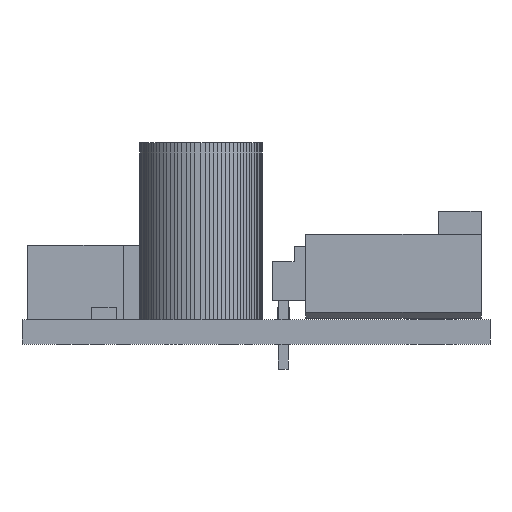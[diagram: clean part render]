
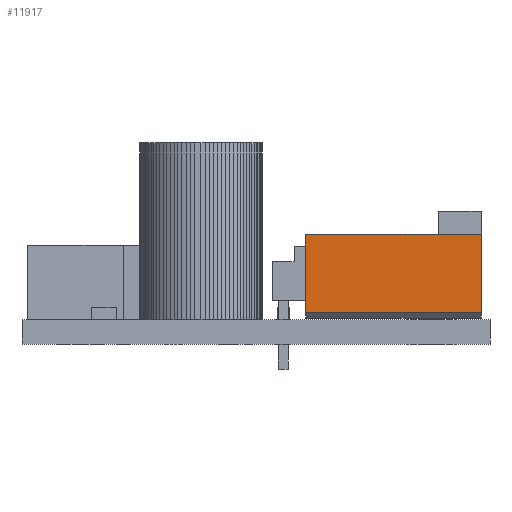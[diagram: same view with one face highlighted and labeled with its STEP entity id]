
A CAD part, front view. The second image highlights one B-rep face of the part: STEP entity #11917.
In plain terms, the highlighted planar face has unit normal (0, -1, 0) as drawn and (-1, 0, 0) by its records, which use the part's own axes.
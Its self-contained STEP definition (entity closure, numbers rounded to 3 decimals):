
#3948 = VERTEX_POINT('',#3949);
#3949 = CARTESIAN_POINT('',(-5.08,-2.54,-5.715));
#3958 = PLANE('',#3959);
#3959 = AXIS2_PLACEMENT_3D('',#3960,#3961,#3962);
#3960 = CARTESIAN_POINT('',(0.,0.,-5.715));
#3961 = DIRECTION('',(0.,0.,1.));
#3962 = DIRECTION('',(1.,0.,0.));
#3970 = PLANE('',#3971);
#3971 = AXIS2_PLACEMENT_3D('',#3972,#3973,#3974);
#3972 = CARTESIAN_POINT('',(-5.08,-2.54,-5.715));
#3973 = DIRECTION('',(0.,-1.,0.));
#3974 = DIRECTION('',(1.,0.,0.));
#4179 = VERTEX_POINT('',#4180);
#4180 = CARTESIAN_POINT('',(-5.08,2.54,-5.715));
#4194 = PLANE('',#4195);
#4195 = AXIS2_PLACEMENT_3D('',#4196,#4197,#4198);
#4196 = CARTESIAN_POINT('',(5.08,2.54,-5.715));
#4197 = DIRECTION('',(0.,1.,0.));
#4198 = DIRECTION('',(-1.,0.,0.));
#4206 = EDGE_CURVE('',#4179,#3948,#4207,.T.);
#4207 = SURFACE_CURVE('',#4208,(#4212,#4219),.PCURVE_S1.);
#4208 = LINE('',#4209,#4210);
#4209 = CARTESIAN_POINT('',(-5.08,2.54,-5.715));
#4210 = VECTOR('',#4211,1.);
#4211 = DIRECTION('',(0.,-1.,0.));
#4212 = PCURVE('',#3958,#4213);
#4213 = DEFINITIONAL_REPRESENTATION('',(#4214),#4218);
#4214 = LINE('',#4215,#4216);
#4215 = CARTESIAN_POINT('',(-5.08,2.54));
#4216 = VECTOR('',#4217,1.);
#4217 = DIRECTION('',(0.,-1.));
#4218 = ( GEOMETRIC_REPRESENTATION_CONTEXT(2) 
PARAMETRIC_REPRESENTATION_CONTEXT() REPRESENTATION_CONTEXT('2D SPACE',''
  ) );
#4219 = PCURVE('',#4220,#4225);
#4220 = PLANE('',#4221);
#4221 = AXIS2_PLACEMENT_3D('',#4222,#4223,#4224);
#4222 = CARTESIAN_POINT('',(-5.08,2.54,-5.715));
#4223 = DIRECTION('',(-1.,0.,0.));
#4224 = DIRECTION('',(0.,-1.,0.));
#4225 = DEFINITIONAL_REPRESENTATION('',(#4226),#4230);
#4226 = LINE('',#4227,#4228);
#4227 = CARTESIAN_POINT('',(0.,0.));
#4228 = VECTOR('',#4229,1.);
#4229 = DIRECTION('',(1.,0.));
#4230 = ( GEOMETRIC_REPRESENTATION_CONTEXT(2) 
PARAMETRIC_REPRESENTATION_CONTEXT() REPRESENTATION_CONTEXT('2D SPACE',''
  ) );
#4388 = PLANE('',#4389);
#4389 = AXIS2_PLACEMENT_3D('',#4390,#4391,#4392);
#4390 = CARTESIAN_POINT('',(0.,0.,5.715));
#4391 = DIRECTION('',(0.,0.,1.));
#4392 = DIRECTION('',(1.,0.,0.));
#4449 = EDGE_CURVE('',#3948,#4450,#4452,.T.);
#4450 = VERTEX_POINT('',#4451);
#4451 = CARTESIAN_POINT('',(-5.08,-2.54,5.715));
#4452 = SURFACE_CURVE('',#4453,(#4457,#4464),.PCURVE_S1.);
#4453 = LINE('',#4454,#4455);
#4454 = CARTESIAN_POINT('',(-5.08,-2.54,-5.715));
#4455 = VECTOR('',#4456,1.);
#4456 = DIRECTION('',(0.,0.,1.));
#4457 = PCURVE('',#3970,#4458);
#4458 = DEFINITIONAL_REPRESENTATION('',(#4459),#4463);
#4459 = LINE('',#4460,#4461);
#4460 = CARTESIAN_POINT('',(0.,0.));
#4461 = VECTOR('',#4462,1.);
#4462 = DIRECTION('',(0.,1.));
#4463 = ( GEOMETRIC_REPRESENTATION_CONTEXT(2) 
PARAMETRIC_REPRESENTATION_CONTEXT() REPRESENTATION_CONTEXT('2D SPACE',''
  ) );
#4464 = PCURVE('',#4220,#4465);
#4465 = DEFINITIONAL_REPRESENTATION('',(#4466),#4470);
#4466 = LINE('',#4467,#4468);
#4467 = CARTESIAN_POINT('',(5.08,0.));
#4468 = VECTOR('',#4469,1.);
#4469 = DIRECTION('',(0.,1.));
#4470 = ( GEOMETRIC_REPRESENTATION_CONTEXT(2) 
PARAMETRIC_REPRESENTATION_CONTEXT() REPRESENTATION_CONTEXT('2D SPACE',''
  ) );
#5092 = EDGE_CURVE('',#5093,#4450,#5095,.T.);
#5093 = VERTEX_POINT('',#5094);
#5094 = CARTESIAN_POINT('',(-5.08,2.54,5.715));
#5095 = SURFACE_CURVE('',#5096,(#5100,#5107),.PCURVE_S1.);
#5096 = LINE('',#5097,#5098);
#5097 = CARTESIAN_POINT('',(-5.08,2.54,5.715));
#5098 = VECTOR('',#5099,1.);
#5099 = DIRECTION('',(0.,-1.,0.));
#5100 = PCURVE('',#4388,#5101);
#5101 = DEFINITIONAL_REPRESENTATION('',(#5102),#5106);
#5102 = LINE('',#5103,#5104);
#5103 = CARTESIAN_POINT('',(-5.08,2.54));
#5104 = VECTOR('',#5105,1.);
#5105 = DIRECTION('',(0.,-1.));
#5106 = ( GEOMETRIC_REPRESENTATION_CONTEXT(2) 
PARAMETRIC_REPRESENTATION_CONTEXT() REPRESENTATION_CONTEXT('2D SPACE',''
  ) );
#5107 = PCURVE('',#4220,#5108);
#5108 = DEFINITIONAL_REPRESENTATION('',(#5109),#5113);
#5109 = LINE('',#5110,#5111);
#5110 = CARTESIAN_POINT('',(0.,11.43));
#5111 = VECTOR('',#5112,1.);
#5112 = DIRECTION('',(1.,0.));
#5113 = ( GEOMETRIC_REPRESENTATION_CONTEXT(2) 
PARAMETRIC_REPRESENTATION_CONTEXT() REPRESENTATION_CONTEXT('2D SPACE',''
  ) );
#10770 = EDGE_CURVE('',#4179,#5093,#10771,.T.);
#10771 = SURFACE_CURVE('',#10772,(#10776,#10783),.PCURVE_S1.);
#10772 = LINE('',#10773,#10774);
#10773 = CARTESIAN_POINT('',(-5.08,2.54,-5.715));
#10774 = VECTOR('',#10775,1.);
#10775 = DIRECTION('',(0.,0.,1.));
#10776 = PCURVE('',#4194,#10777);
#10777 = DEFINITIONAL_REPRESENTATION('',(#10778),#10782);
#10778 = LINE('',#10779,#10780);
#10779 = CARTESIAN_POINT('',(10.16,0.));
#10780 = VECTOR('',#10781,1.);
#10781 = DIRECTION('',(0.,1.));
#10782 = ( GEOMETRIC_REPRESENTATION_CONTEXT(2) 
PARAMETRIC_REPRESENTATION_CONTEXT() REPRESENTATION_CONTEXT('2D SPACE',''
  ) );
#10783 = PCURVE('',#4220,#10784);
#10784 = DEFINITIONAL_REPRESENTATION('',(#10785),#10789);
#10785 = LINE('',#10786,#10787);
#10786 = CARTESIAN_POINT('',(0.,0.));
#10787 = VECTOR('',#10788,1.);
#10788 = DIRECTION('',(0.,1.));
#10789 = ( GEOMETRIC_REPRESENTATION_CONTEXT(2) 
PARAMETRIC_REPRESENTATION_CONTEXT() REPRESENTATION_CONTEXT('2D SPACE',''
  ) );
#11917 = ADVANCED_FACE('',(#11918),#4220,.T.);
#11918 = FACE_BOUND('',#11919,.F.);
#11919 = EDGE_LOOP('',(#11920,#11921,#11922,#11923));
#11920 = ORIENTED_EDGE('',*,*,#4206,.F.);
#11921 = ORIENTED_EDGE('',*,*,#10770,.T.);
#11922 = ORIENTED_EDGE('',*,*,#5092,.T.);
#11923 = ORIENTED_EDGE('',*,*,#4449,.F.);
